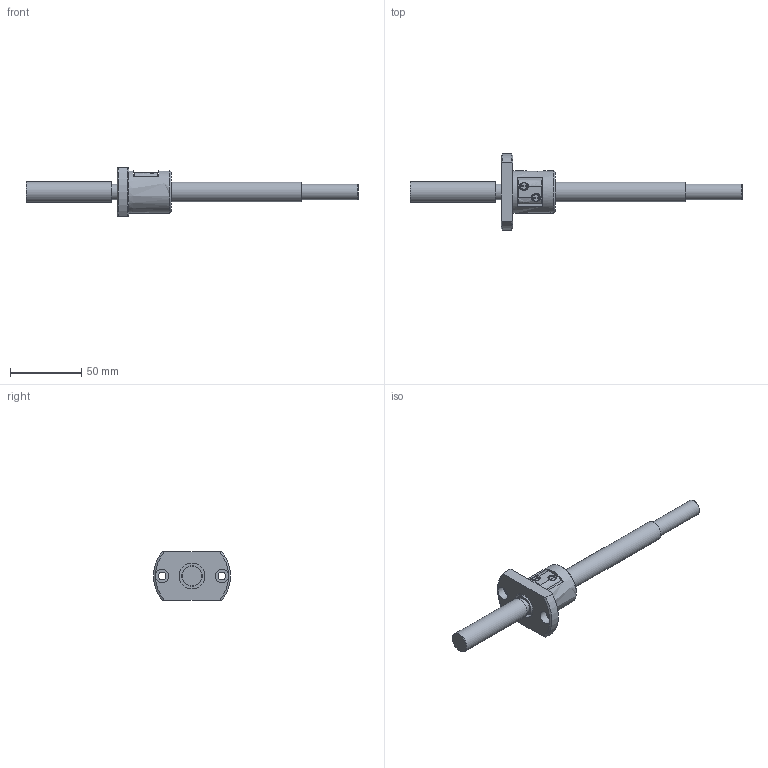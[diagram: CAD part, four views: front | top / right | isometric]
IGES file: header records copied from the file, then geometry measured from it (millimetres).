
Start section: Data from Parasolid IGES Translator 26.0.171, Copyright(c) 2006 Siemens PLM Software. All Rights Reserved.
Global section: file name: MBF1404-3.7RRGT+233LC3A(0).igs; native system: By Siemens PLM Incorporated; preprocessor: XPlus GENERIC/IGES 26.0.171; author: Noname; organization: Noname; date: 20240715.080344; units: millimetre
Bounding box: 233 x 54 x 34 mm (x, y, z)
Surface area: 19704.5 mm2 (no closed solid volume)
Topology: 0 solids, 0 shells, 67 faces, 340 edges, 322 vertices
Faces by surface type: extrusion 34, revolution 33
